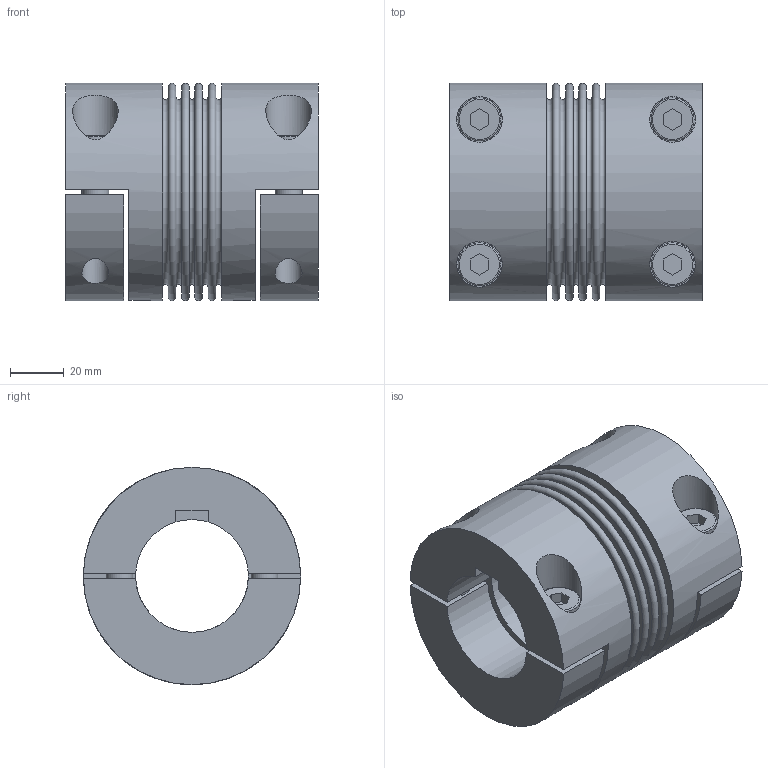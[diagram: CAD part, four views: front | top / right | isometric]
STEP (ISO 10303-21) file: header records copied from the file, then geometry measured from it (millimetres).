
FILE_DESCRIPTION(/* description */ ('STEP AP214'),/* implementation_level */ '2;1');
FILE_NAME(/* name */ 'C:\Diequa Files\DieQua Coupling\BCS\STP\BCS.80.94.#.#.stp',/* time_stamp */ '2018-11-15T09:29:38-06:00',/* author */ ('DiequaCAD'),/* organization */ (''),/* preprocessor_version */ 'ST-DEVELOPER v17.2',/* originating_system */ 'Autodesk Inventor 2019',/* authorisation */ ' ');
FILE_SCHEMA (('AUTOMOTIVE_DESIGN { 1 0 10303 214 3 1 1 }'));
Length unit declared in the file: millimetre
Products named in the file (1): BKH_80_94_42_PFN_42_PFN_14
Bounding box: 94 x 81 x 81 mm (x, y, z)
Volume: 311447 mm3; surface area: 72807.2 mm2
Topology: 1 solids, 1 shells, 110 faces, 260 edges, 180 vertices
Faces by surface type: plane 74, cylinder 23, torus 13
Full cylindrical faces by diameter (mm): 10 x8, 16 x4, 17 x4, 42 x1, 81 x2
Entity records: 3567 total; most frequent: CARTESIAN_POINT 851, DIRECTION 575, ORIENTED_EDGE 520, EDGE_CURVE 260, AXIS2_PLACEMENT_3D 216, VERTEX_POINT 180, EDGE_LOOP 144, LINE 143
